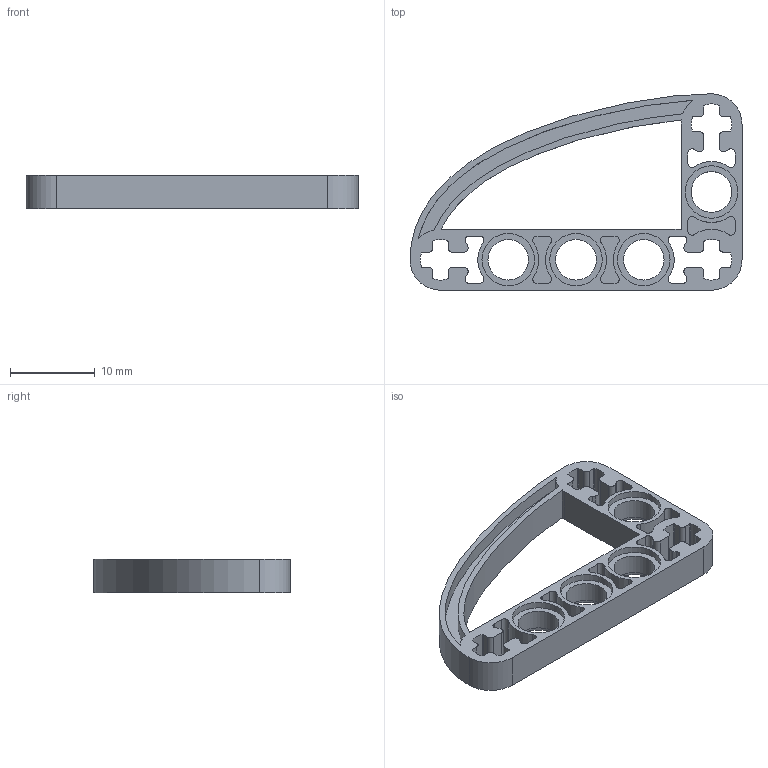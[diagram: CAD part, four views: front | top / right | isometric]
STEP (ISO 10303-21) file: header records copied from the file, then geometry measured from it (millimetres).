
FILE_DESCRIPTION(/* description */ ('Unknown'),/* implementation_level */ '2;1');
FILE_NAME(/* name */ 'Ye_4128554_AVV',/* time_stamp */ '2025-07-22T00:07:14+02:00',/* author */ ('Unknown'),/* organization */ ('Unknown'),/* preprocessor_version */ 'ST-DEVELOPER v19.4',/* originating_system */ 'Solid Edge',/* authorisation */ 'Unknown');
FILE_SCHEMA (('AUTOMOTIVE_DESIGN {1 0 10303 214 3 1 1}'));
Length unit declared in the file: millimetre
Products named in the file (1): Ye_4128554_AVV
Bounding box: 39.2 x 23.2 x 4 mm (x, y, z)
Volume: 1045.8 mm3; surface area: 2439.4 mm2
Topology: 1 solids, 1 shells, 192 faces, 524 edges, 350 vertices
Faces by surface type: cylinder 122, plane 64, bspline 6
Full cylindrical faces by diameter (mm): 4.8 x4, 6.2 x8
Entity records: 6610 total; most frequent: CARTESIAN_POINT 1521, DIRECTION 1116, ORIENTED_EDGE 1024, EDGE_CURVE 512, AXIS2_PLACEMENT_3D 431, VERTEX_POINT 350, LINE 254, VECTOR 254
